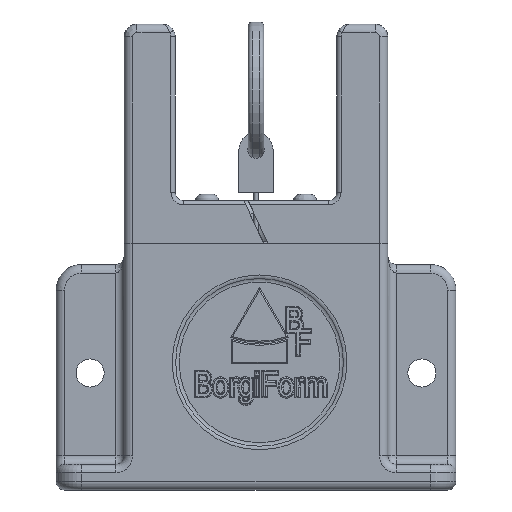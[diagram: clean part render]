
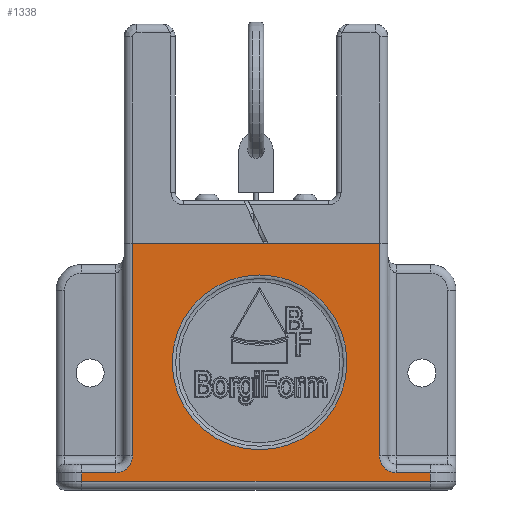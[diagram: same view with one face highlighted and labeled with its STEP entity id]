
A CAD part, front view. The second image highlights one B-rep face of the part: STEP entity #1338.
In plain terms, the highlighted planar face has unit normal (0, -1, 0).
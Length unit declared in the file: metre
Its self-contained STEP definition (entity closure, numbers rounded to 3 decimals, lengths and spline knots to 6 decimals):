
#1338=ADVANCED_FACE('',(#3283,#3284),#3285,.T.);
#3283=FACE_BOUND('',#6916,.T.);
#3284=FACE_OUTER_BOUND('',#6917,.T.);
#3285=PLANE('',#6918);
#6916=EDGE_LOOP('',(#33488));
#6917=EDGE_LOOP('',(#33489,#33490,#33491,#33492,#33493,#33494,#33495,#33496,#33497,#33498));
#6918=AXIS2_PLACEMENT_3D('',#33499,#33500,#33501);
#33488=ORIENTED_EDGE('',*,*,#38766,.T.);
#33489=ORIENTED_EDGE('',*,*,#38767,.T.);
#33490=ORIENTED_EDGE('',*,*,#38768,.T.);
#33491=ORIENTED_EDGE('',*,*,#38769,.T.);
#33492=ORIENTED_EDGE('',*,*,#38770,.T.);
#33493=ORIENTED_EDGE('',*,*,#38771,.T.);
#33494=ORIENTED_EDGE('',*,*,#38772,.T.);
#33495=ORIENTED_EDGE('',*,*,#38593,.T.);
#33496=ORIENTED_EDGE('',*,*,#38773,.T.);
#33497=ORIENTED_EDGE('',*,*,#38774,.T.);
#33498=ORIENTED_EDGE('',*,*,#38775,.T.);
#33499=CARTESIAN_POINT('',(0.0,-0.017,0.0));
#33500=DIRECTION('',(0.0,-1.0,0.0));
#33501=DIRECTION('',(0.0,0.0,-1.0));
#38593=EDGE_CURVE('',#41710,#41708,#41711,.T.);
#38766=EDGE_CURVE('',#42051,#42051,#42052,.F.);
#38767=EDGE_CURVE('',#42053,#42054,#42055,.F.);
#38768=EDGE_CURVE('',#42054,#42056,#42057,.T.);
#38769=EDGE_CURVE('',#42056,#42058,#42059,.T.);
#38770=EDGE_CURVE('',#42058,#42060,#42061,.T.);
#38771=EDGE_CURVE('',#42060,#42062,#42063,.F.);
#38772=EDGE_CURVE('',#42062,#41710,#42064,.T.);
#38773=EDGE_CURVE('',#41708,#42065,#42066,.F.);
#38774=EDGE_CURVE('',#42065,#42067,#42068,.F.);
#38775=EDGE_CURVE('',#42067,#42053,#42069,.T.);
#41708=VERTEX_POINT('',#46332);
#41710=VERTEX_POINT('',#46334);
#41711=LINE('',#46335,#46336);
#42051=VERTEX_POINT('',#47169);
#42052=CIRCLE('',#47170,0.02054);
#42053=VERTEX_POINT('',#47171);
#42054=VERTEX_POINT('',#47172);
#42055=LINE('',#47173,#47174);
#42056=VERTEX_POINT('',#47175);
#42057=LINE('',#47176,#47177);
#42058=VERTEX_POINT('',#47178);
#42059=LINE('',#47179,#47180);
#42060=VERTEX_POINT('',#47181);
#42061=LINE('',#47182,#47183);
#42062=VERTEX_POINT('',#47184);
#42063=CIRCLE('',#47185,0.004);
#42064=LINE('',#47186,#47187);
#42065=VERTEX_POINT('',#47188);
#42066=LINE('',#47189,#47190);
#42067=VERTEX_POINT('',#47191);
#42068=CIRCLE('',#47192,0.004);
#42069=LINE('',#47193,#47194);
#46332=CARTESIAN_POINT('',(-0.029,-0.017,0.056));
#46334=CARTESIAN_POINT('',(0.029,-0.017,0.056));
#46335=CARTESIAN_POINT('',(0.0,-0.017,0.056));
#46336=VECTOR('',#53509,1.0);
#47169=CARTESIAN_POINT('',(0.000832,-0.017,0.00746));
#47170=AXIS2_PLACEMENT_3D('',#53622,#53623,#53624);
#47171=CARTESIAN_POINT('',(-0.041,-0.017,0.002));
#47172=CARTESIAN_POINT('',(-0.041,-0.017,0.0));
#47173=CARTESIAN_POINT('',(-0.041,-0.017,-0.002));
#47174=VECTOR('',#53625,1.0);
#47175=CARTESIAN_POINT('',(0.041,-0.017,0.0));
#47176=CARTESIAN_POINT('',(0.0,-0.017,0.0));
#47177=VECTOR('',#53626,1.0);
#47178=CARTESIAN_POINT('',(0.041,-0.017,0.002));
#47179=CARTESIAN_POINT('',(0.041,-0.017,-0.002));
#47180=VECTOR('',#53627,1.0);
#47181=CARTESIAN_POINT('',(0.033,-0.017,0.002));
#47182=CARTESIAN_POINT('',(0.0,-0.017,0.002));
#47183=VECTOR('',#53628,1.0);
#47184=CARTESIAN_POINT('',(0.029,-0.017,0.006));
#47185=AXIS2_PLACEMENT_3D('',#53629,#53630,#53631);
#47186=CARTESIAN_POINT('',(0.029,-0.017,0.0));
#47187=VECTOR('',#53632,1.0);
#47188=CARTESIAN_POINT('',(-0.029,-0.017,0.006));
#47189=CARTESIAN_POINT('',(-0.029,-0.017,0.0));
#47190=VECTOR('',#53633,1.0);
#47191=CARTESIAN_POINT('',(-0.033,-0.017,0.002));
#47192=AXIS2_PLACEMENT_3D('',#53634,#53635,#53636);
#47193=CARTESIAN_POINT('',(0.0,-0.017,0.002));
#47194=VECTOR('',#53637,1.0);
#53509=DIRECTION('',(-1.0,0.0,0.0));
#53622=CARTESIAN_POINT('',(0.000832,-0.017,0.028));
#53623=DIRECTION('',(0.0,-1.0,0.0));
#53624=DIRECTION('',(0.0,0.0,-1.0));
#53625=DIRECTION('',(0.0,0.0,1.0));
#53626=DIRECTION('',(1.0,0.0,0.0));
#53627=DIRECTION('',(-0.0,0.0,1.0));
#53628=DIRECTION('',(-1.0,0.0,0.0));
#53629=CARTESIAN_POINT('',(0.033,-0.017,0.006));
#53630=DIRECTION('',(0.0,-1.0,0.0));
#53631=DIRECTION('',(0.0,0.0,-1.0));
#53632=DIRECTION('',(0.0,0.0,1.0));
#53633=DIRECTION('',(0.0,0.0,1.0));
#53634=CARTESIAN_POINT('',(-0.033,-0.017,0.006));
#53635=DIRECTION('',(0.0,-1.0,0.0));
#53636=DIRECTION('',(0.0,0.0,-1.0));
#53637=DIRECTION('',(-1.0,0.0,0.0));
